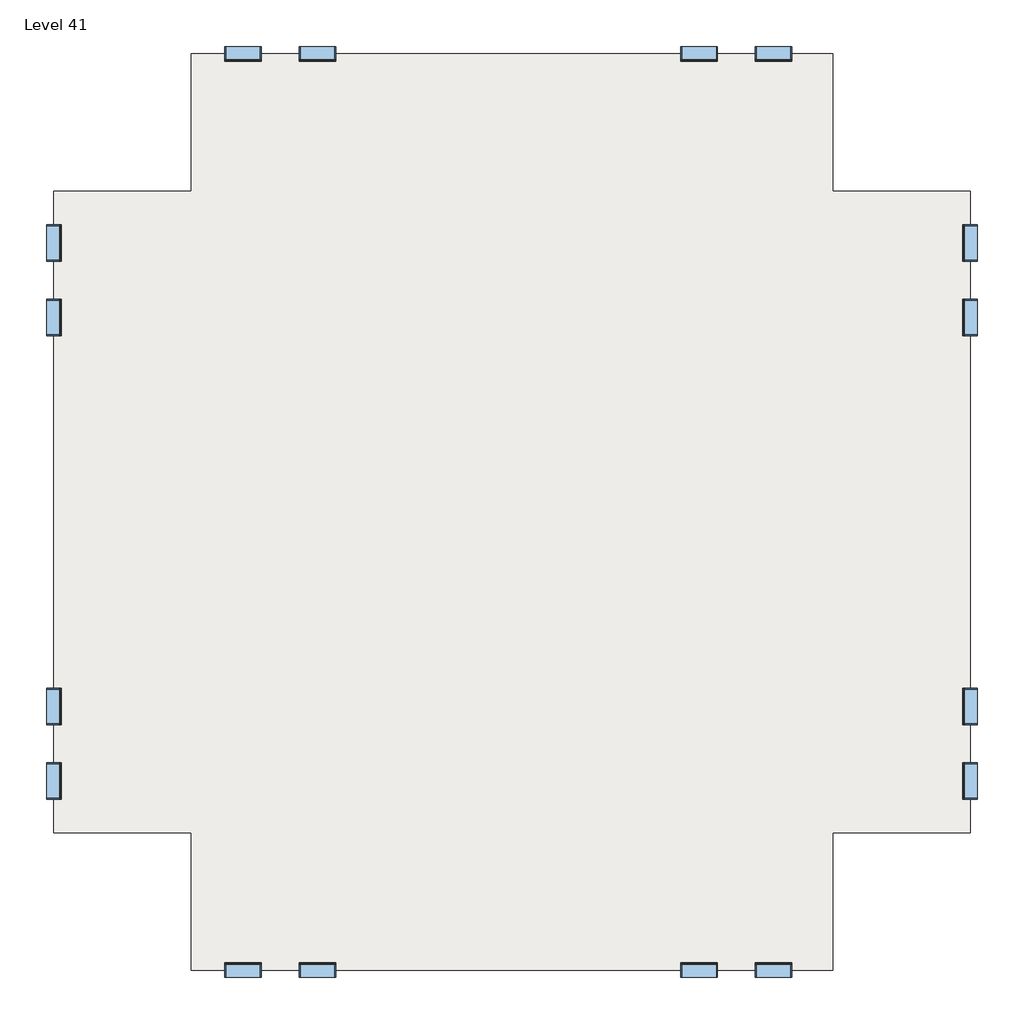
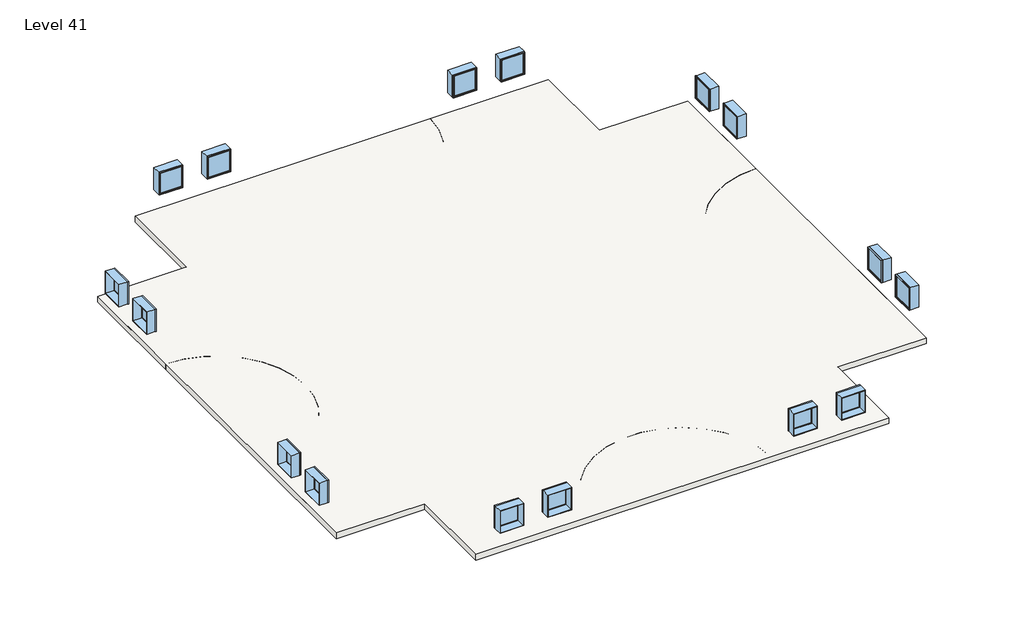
# One storey: 16 windows, 3 slabs.
"""IFC4 building model written with IfcOpenShell, lengths in millimetres."""

from ifc_helpers import new_model, si_unit, point, frame, frame_2d, origin, place, context, project, spatial, polyline, circle_curve, trimmed, segment, composite_curve, outline, extrude, transform, mapped, element, save
from components import window_d0035ecf, window_d434eb62

model = new_model("IFC4")

# Units and contexts
model_context = context("Model", 3, world=origin())
ifc_project = project(units=[si_unit("LENGTHUNIT", "METRE", prefix="MILLI")], contexts=[model_context])

# Site, building, storey
site = spatial("IfcSite", under=ifc_project)
building = spatial("IfcBuilding", under=site)
storey = spatial("IfcBuildingStorey", under=building, Name="Level 41", Elevation=121920.0)

# Slabs
placement = place(None, origin())
element("IfcSlab", 1, ObjectType="Generic - 12\"", at=placement, inside=storey, context=model_context, shape_type="SweptSolid", body=[
    extrude(outline(polyline([(-7150.3629456, 4479.6634547), (-7150.3629456, 9051.6634547), (14185.6370544, 9051.6634547), (14185.6370544, 4479.6634547), (18757.6370544, 4479.6634547), (18757.6370544, -16856.3365453), (14185.6370544, -16856.3365453), (14185.6370544, -21428.3365453), (-7150.3629456, -21428.3365453), (-7150.3629456, -16856.3365453), (-11722.3629456, -16856.3365453), (-11722.3629456, 4479.6634547), (-7150.3629456, 4479.6634547)])), frame((0.0, 0.0, 121615.2), z_axis=(0.0, 0.0, 1.0), x_axis=(1.0, 0.0, 0.0)), (0.0, 0.0, 1.0), 304.8),
])
element("IfcSlab", 2, ObjectType="Generic - 12\"", at=placement, inside=storey, context=model_context, shape_type="SweptSolid", body=[
    extrude(outline(polyline([(-7150.3629456, 4479.6634547), (-7150.3629456, 9051.6634547), (14185.6370544, 9051.6634547), (14185.6370544, 4479.6634547), (18757.6370544, 4479.6634547), (18757.6370544, -16856.3365453), (14185.6370544, -16856.3365453), (14185.6370544, -21428.3365453), (-7150.3629456, -21428.3365453), (-7150.3629456, -16856.3365453), (-11722.3629456, -16856.3365453), (-11722.3629456, 4479.6634547), (-7150.3629456, 4479.6634547)])), frame((0.0, 0.0, 121615.2), z_axis=(0.0, 0.0, 1.0), x_axis=(1.0, 0.0, 0.0)), (0.0, 0.0, 1.0), 304.8),
])
element("IfcSlab", 3, ObjectType="Generic - 12\"", at=placement, inside=storey, context=model_context, shape_type="SweptSolid", body=[
    extrude(outline(composite_curve([segment(polyline([(-7150.3629456, 4479.6634547), (-7150.3629456, 9051.6634547), (-1054.3629456, 9051.6634547)]), True, "CONTINUOUS"), segment(trimmed(circle_curve(frame_2d((3517.6370544, 9051.6634547)), 4572.0), [point((-1054.3629456, 9051.6634547))], [point((8089.6370544, 9051.6634547))], True, "CARTESIAN"), True, "CONTINUOUS"), segment(polyline([(8089.6370544, 9051.6634547), (14185.6370544, 9051.6634547), (14185.6370544, 4479.6634547), (18757.6370544, 4479.6634547), (18757.6370544, -1616.3365453)]), True, "CONTINUOUS"), segment(trimmed(circle_curve(frame_2d((18757.6370544, -6188.3365453)), 4572.0), [point((18757.6370544, -1616.3365453))], [point((18757.6370544, -10760.3365453))], True, "CARTESIAN"), True, "CONTINUOUS"), segment(polyline([(18757.6370544, -10760.3365453), (18757.6370544, -16856.3365453), (14185.6370544, -16856.3365453), (14185.6370544, -21428.3365453), (8089.6370544, -21428.3365453)]), True, "CONTINUOUS"), segment(trimmed(circle_curve(frame_2d((3517.6370544, -21428.3365453)), 4572.0), [point((8089.6370544, -21428.3365453))], [point((-1054.3629456, -21428.3365453))], True, "CARTESIAN"), True, "CONTINUOUS"), segment(polyline([(-1054.3629456, -21428.3365453), (-7150.3629456, -21428.3365453), (-7150.3629456, -16856.3365453), (-11722.3629456, -16856.3365453), (-11722.3629456, -10760.3365453)]), True, "CONTINUOUS"), segment(trimmed(circle_curve(frame_2d((-11722.3629456, -6188.3365453)), 4572.0), [point((-11722.3629456, -10760.3365453))], [point((-11722.3629456, -1616.3365453))], True, "CARTESIAN"), True, "CONTINUOUS"), segment(polyline([(-11722.3629456, -1616.3365453), (-11722.3629456, 4479.6634547), (-7150.3629456, 4479.6634547)]), True, "CONTINUOUS")], self_intersect=False)), frame((0.0, 0.0, 121615.2), z_axis=(0.0, 0.0, 1.0), x_axis=(1.0, 0.0, 0.0)), (0.0, 0.0, 1.0), 304.8),
])

# Windows
window_shape = window_d0035ecf(model_context)
element("IfcWindow", 4, ObjectType="Fixed : 48\" x 48\"", at=placement, inside=storey, context=model_context, shape_type="MappedRepresentation", body=[
    mapped(window_shape, transform((-11719.1879456, 247.3884547, 121920.0), x_axis=(0.0, -1.0, 0.0), y_axis=(1.0, 0.0, 0.0), z_axis=(0.0, 0.0, 1.0))),
])
element("IfcWindow", 5, ObjectType="Fixed : 48\" x 48\"", at=placement, inside=storey, context=model_context, shape_type="MappedRepresentation", body=[
    mapped(window_shape, transform((-5469.1993281, 9048.4884547, 121920.0), x_axis=(-1.0, 0.0, 0.0), y_axis=(0.0, -1.0, 0.0), z_axis=(0.0, 0.0, 1.0))),
])
element("IfcWindow", 6, ObjectType="Fixed : 48\" x 48\"", at=placement, inside=storey, context=model_context, shape_type="MappedRepresentation", body=[
    mapped(window_shape, transform((-11719.1879456, -15175.1729277, 121920.0), x_axis=(0.0, -1.0, 0.0), y_axis=(1.0, 0.0, 0.0), z_axis=(0.0, 0.0, 1.0))),
])
element("IfcWindow", 7, ObjectType="Fixed : 48\" x 48\"", at=placement, inside=storey, context=model_context, shape_type="MappedRepresentation", body=[
    mapped(window_shape, transform((-2918.0879456, -21425.1615453, 121920.0), x_axis=(1.0, 0.0, 0.0), y_axis=(0.0, 1.0, 0.0), z_axis=(0.0, 0.0, 1.0))),
])
element("IfcWindow", 8, ObjectType="Fixed : 48\" x 48\"", at=placement, inside=storey, context=model_context, shape_type="MappedRepresentation", body=[
    mapped(window_shape, transform((18754.4620544, 2798.4998372, 121920.0), x_axis=(0.0, 1.0, 0.0), y_axis=(-1.0, 0.0, 0.0), z_axis=(0.0, 0.0, 1.0))),
])
element("IfcWindow", 9, ObjectType="Fixed : 48\" x 48\"", at=placement, inside=storey, context=model_context, shape_type="MappedRepresentation", body=[
    mapped(window_shape, transform((9705.7120544, 9048.4884547, 121920.0), x_axis=(-1.0, 0.0, 0.0), y_axis=(0.0, -1.0, 0.0), z_axis=(0.0, 0.0, 1.0))),
])
element("IfcWindow", 10, ObjectType="Fixed : 48\" x 48\"", at=placement, inside=storey, context=model_context, shape_type="MappedRepresentation", body=[
    mapped(window_shape, transform((18754.4620544, -12624.0615453, 121920.0), x_axis=(0.0, 1.0, 0.0), y_axis=(-1.0, 0.0, 0.0), z_axis=(0.0, 0.0, 1.0))),
])
element("IfcWindow", 11, ObjectType="Fixed : 48\" x 48\"", at=placement, inside=storey, context=model_context, shape_type="MappedRepresentation", body=[
    mapped(window_shape, transform((12256.8234368, -21425.1615453, 121920.0), x_axis=(1.0, 0.0, 0.0), y_axis=(0.0, 1.0, 0.0), z_axis=(0.0, 0.0, 1.0))),
])
window_2_shape = window_d434eb62(model_context)
element("IfcWindow", 12, ObjectType="Fixed : 48\" x 48\"", at=placement, inside=storey, context=model_context, shape_type="MappedRepresentation", body=[
    mapped(window_2_shape, transform((-11719.1879456, 2798.4998372, 121920.0), x_axis=(0.0, 1.0, 0.0), y_axis=(-1.0, 0.0, 0.0), z_axis=(0.0, 0.0, 1.0))),
])
element("IfcWindow", 13, ObjectType="Fixed : 48\" x 48\"", at=placement, inside=storey, context=model_context, shape_type="MappedRepresentation", body=[
    mapped(window_2_shape, transform((-2918.0879456, 9048.4884547, 121920.0), x_axis=(1.0, 0.0, 0.0), y_axis=(0.0, 1.0, 0.0), z_axis=(0.0, 0.0, 1.0))),
])
element("IfcWindow", 14, ObjectType="Fixed : 48\" x 48\"", at=placement, inside=storey, context=model_context, shape_type="MappedRepresentation", body=[
    mapped(window_2_shape, transform((-11719.1879456, -12624.0615453, 121920.0), x_axis=(0.0, 1.0, 0.0), y_axis=(-1.0, 0.0, 0.0), z_axis=(0.0, 0.0, 1.0))),
])
element("IfcWindow", 15, ObjectType="Fixed : 48\" x 48\"", at=placement, inside=storey, context=model_context, shape_type="MappedRepresentation", body=[
    mapped(window_2_shape, transform((-5469.1993281, -21425.1615453, 121920.0), x_axis=(-1.0, 0.0, 0.0), y_axis=(0.0, -1.0, 0.0), z_axis=(0.0, 0.0, 1.0))),
])
element("IfcWindow", 16, ObjectType="Fixed : 48\" x 48\"", at=placement, inside=storey, context=model_context, shape_type="MappedRepresentation", body=[
    mapped(window_2_shape, transform((18754.4620544, 247.3884547, 121920.0), x_axis=(0.0, -1.0, 0.0), y_axis=(1.0, 0.0, 0.0), z_axis=(0.0, 0.0, 1.0))),
])
element("IfcWindow", 17, ObjectType="Fixed : 48\" x 48\"", at=placement, inside=storey, context=model_context, shape_type="MappedRepresentation", body=[
    mapped(window_2_shape, transform((12256.8234368, 9048.4884547, 121920.0), x_axis=(1.0, 0.0, 0.0), y_axis=(0.0, 1.0, 0.0), z_axis=(0.0, 0.0, 1.0))),
])
element("IfcWindow", 18, ObjectType="Fixed : 48\" x 48\"", at=placement, inside=storey, context=model_context, shape_type="MappedRepresentation", body=[
    mapped(window_2_shape, transform((18754.4620544, -15175.1729277, 121920.0), x_axis=(0.0, -1.0, 0.0), y_axis=(1.0, 0.0, 0.0), z_axis=(0.0, 0.0, 1.0))),
])
element("IfcWindow", 19, ObjectType="Fixed : 48\" x 48\"", at=placement, inside=storey, context=model_context, shape_type="MappedRepresentation", body=[
    mapped(window_2_shape, transform((9705.7120544, -21425.1615453, 121920.0), x_axis=(-1.0, 0.0, 0.0), y_axis=(0.0, -1.0, 0.0), z_axis=(0.0, 0.0, 1.0))),
])

save(model, "model.ifc")
